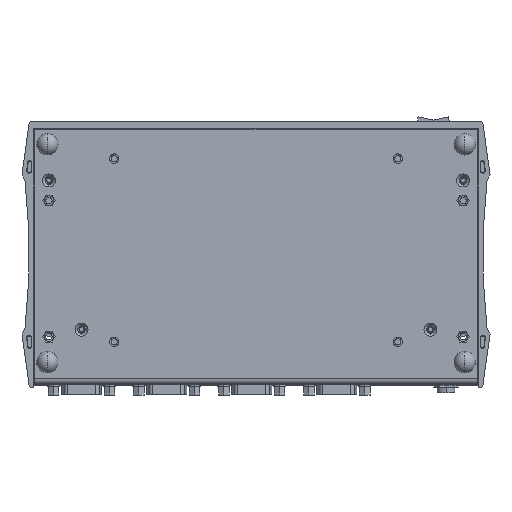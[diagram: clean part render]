
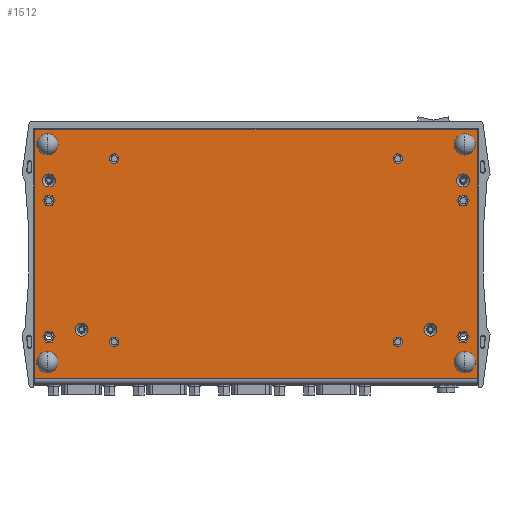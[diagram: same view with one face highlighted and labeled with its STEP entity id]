
A CAD part, front view. The second image highlights one B-rep face of the part: STEP entity #1512.
In plain terms, the highlighted planar face has unit normal (0, -1, 0).
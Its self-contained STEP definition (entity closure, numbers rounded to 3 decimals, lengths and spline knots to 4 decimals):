
#1=DIRECTION('',(-1.,0.,0.));
#2=VECTOR('',#1,7.8);
#3=CARTESIAN_POINT('',(3.9,0.,-1.6305));
#4=LINE('',#3,#2);
#5=DIRECTION('',(0.,0.,1.));
#6=VECTOR('',#5,4.3905);
#7=CARTESIAN_POINT('',(-3.9,0.,-1.6305));
#8=LINE('',#7,#6);
#9=DIRECTION('',(1.,0.,0.));
#10=VECTOR('',#9,7.8);
#11=CARTESIAN_POINT('',(-3.9,0.,2.76));
#12=LINE('',#11,#10);
#13=DIRECTION('',(0.,0.,-1.));
#14=VECTOR('',#13,4.3905);
#15=CARTESIAN_POINT('',(3.9,0.,2.76));
#16=LINE('',#15,#14);
#17=CARTESIAN_POINT('',(3.65,0.,-0.89));
#18=DIRECTION('',(0.,-1.,0.));
#19=DIRECTION('',(-1.,0.,0.));
#20=AXIS2_PLACEMENT_3D('',#17,#18,#19);
#22=CARTESIAN_POINT('',(3.65,0.,-0.89));
#23=DIRECTION('',(0.,-1.,0.));
#24=DIRECTION('',(1.,0.,0.));
#25=AXIS2_PLACEMENT_3D('',#22,#23,#24);
#27=CARTESIAN_POINT('',(3.65,0.,1.51));
#28=DIRECTION('',(0.,-1.,0.));
#29=DIRECTION('',(-1.,0.,0.));
#30=AXIS2_PLACEMENT_3D('',#27,#28,#29);
#32=CARTESIAN_POINT('',(3.65,0.,1.51));
#33=DIRECTION('',(0.,-1.,0.));
#34=DIRECTION('',(1.,0.,0.));
#35=AXIS2_PLACEMENT_3D('',#32,#33,#34);
#37=CARTESIAN_POINT('',(-3.65,0.,-0.89));
#38=DIRECTION('',(0.,-1.,0.));
#39=DIRECTION('',(-1.,0.,0.));
#40=AXIS2_PLACEMENT_3D('',#37,#38,#39);
#42=CARTESIAN_POINT('',(-3.65,0.,-0.89));
#43=DIRECTION('',(0.,-1.,0.));
#44=DIRECTION('',(1.,0.,0.));
#45=AXIS2_PLACEMENT_3D('',#42,#43,#44);
#47=CARTESIAN_POINT('',(-3.65,0.,1.51));
#48=DIRECTION('',(0.,-1.,0.));
#49=DIRECTION('',(-1.,0.,0.));
#50=AXIS2_PLACEMENT_3D('',#47,#48,#49);
#52=CARTESIAN_POINT('',(-3.65,0.,1.51));
#53=DIRECTION('',(0.,-1.,0.));
#54=DIRECTION('',(1.,0.,0.));
#55=AXIS2_PLACEMENT_3D('',#52,#53,#54);
#57=CARTESIAN_POINT('',(2.5,0.,-0.98));
#58=DIRECTION('',(0.,1.,0.));
#59=DIRECTION('',(1.,0.,0.));
#60=AXIS2_PLACEMENT_3D('',#57,#58,#59);
#62=CARTESIAN_POINT('',(2.5,0.,-0.98));
#63=DIRECTION('',(0.,1.,0.));
#64=DIRECTION('',(-1.,0.,0.));
#65=AXIS2_PLACEMENT_3D('',#62,#63,#64);
#67=CARTESIAN_POINT('',(2.5,0.,2.25));
#68=DIRECTION('',(0.,1.,0.));
#69=DIRECTION('',(1.,0.,0.));
#70=AXIS2_PLACEMENT_3D('',#67,#68,#69);
#72=CARTESIAN_POINT('',(2.5,0.,2.25));
#73=DIRECTION('',(0.,1.,0.));
#74=DIRECTION('',(-1.,0.,0.));
#75=AXIS2_PLACEMENT_3D('',#72,#73,#74);
#77=CARTESIAN_POINT('',(-2.5,0.,-0.98));
#78=DIRECTION('',(0.,1.,0.));
#79=DIRECTION('',(1.,0.,0.));
#80=AXIS2_PLACEMENT_3D('',#77,#78,#79);
#82=CARTESIAN_POINT('',(-2.5,0.,-0.98));
#83=DIRECTION('',(0.,1.,0.));
#84=DIRECTION('',(-1.,0.,0.));
#85=AXIS2_PLACEMENT_3D('',#82,#83,#84);
#87=CARTESIAN_POINT('',(-2.5,0.,2.25));
#88=DIRECTION('',(0.,1.,0.));
#89=DIRECTION('',(1.,0.,0.));
#90=AXIS2_PLACEMENT_3D('',#87,#88,#89);
#92=CARTESIAN_POINT('',(-2.5,0.,2.25));
#93=DIRECTION('',(0.,1.,0.));
#94=DIRECTION('',(-1.,0.,0.));
#95=AXIS2_PLACEMENT_3D('',#92,#93,#94);
#97=CARTESIAN_POINT('',(3.075,0.,-0.765));
#98=DIRECTION('',(0.,-1.,0.));
#99=DIRECTION('',(0.,0.,1.));
#100=AXIS2_PLACEMENT_3D('',#97,#98,#99);
#102=CARTESIAN_POINT('',(3.075,0.,-0.765));
#103=DIRECTION('',(0.,-1.,0.));
#104=DIRECTION('',(0.,0.,-1.));
#105=AXIS2_PLACEMENT_3D('',#102,#103,#104);
#107=CARTESIAN_POINT('',(3.65,0.,1.865));
#108=DIRECTION('',(0.,-1.,0.));
#109=DIRECTION('',(0.,0.,1.));
#110=AXIS2_PLACEMENT_3D('',#107,#108,#109);
#112=CARTESIAN_POINT('',(3.65,0.,1.865));
#113=DIRECTION('',(0.,-1.,0.));
#114=DIRECTION('',(0.,0.,-1.));
#115=AXIS2_PLACEMENT_3D('',#112,#113,#114);
#117=CARTESIAN_POINT('',(-3.075,0.,-0.765));
#118=DIRECTION('',(0.,1.,0.));
#119=DIRECTION('',(0.,0.,1.));
#120=AXIS2_PLACEMENT_3D('',#117,#118,#119);
#122=CARTESIAN_POINT('',(-3.075,0.,-0.765));
#123=DIRECTION('',(0.,1.,0.));
#124=DIRECTION('',(0.,0.,-1.));
#125=AXIS2_PLACEMENT_3D('',#122,#123,#124);
#127=CARTESIAN_POINT('',(-3.65,0.,1.865));
#128=DIRECTION('',(0.,1.,0.));
#129=DIRECTION('',(0.,0.,1.));
#130=AXIS2_PLACEMENT_3D('',#127,#128,#129);
#132=CARTESIAN_POINT('',(-3.65,0.,1.865));
#133=DIRECTION('',(0.,1.,0.));
#134=DIRECTION('',(0.,0.,-1.));
#135=AXIS2_PLACEMENT_3D('',#132,#133,#134);
#1081=CARTESIAN_POINT('',(3.9,0.,2.76));
#1082=CARTESIAN_POINT('',(-3.9,0.,2.76));
#1083=VERTEX_POINT('',#1081);
#1084=VERTEX_POINT('',#1082);
#1097=CARTESIAN_POINT('',(3.9,0.,-1.6305));
#1098=VERTEX_POINT('',#1097);
#1099=CARTESIAN_POINT('',(-3.9,0.,-1.6305));
#1100=VERTEX_POINT('',#1099);
#1121=CARTESIAN_POINT('',(-3.567,0.,1.51));
#1122=CARTESIAN_POINT('',(-3.733,0.,1.51));
#1123=VERTEX_POINT('',#1121);
#1124=VERTEX_POINT('',#1122);
#1125=CARTESIAN_POINT('',(-3.567,0.,-0.89));
#1126=CARTESIAN_POINT('',(-3.733,0.,-0.89));
#1127=VERTEX_POINT('',#1125);
#1128=VERTEX_POINT('',#1126);
#1345=CARTESIAN_POINT('',(-2.417,0.,2.25));
#1346=CARTESIAN_POINT('',(-2.583,0.,2.25));
#1347=VERTEX_POINT('',#1345);
#1348=VERTEX_POINT('',#1346);
#1349=CARTESIAN_POINT('',(-2.417,0.,-0.98));
#1350=CARTESIAN_POINT('',(-2.583,0.,-0.98));
#1351=VERTEX_POINT('',#1349);
#1352=VERTEX_POINT('',#1350);
#1353=CARTESIAN_POINT('',(2.583,0.,2.25));
#1354=CARTESIAN_POINT('',(2.417,0.,2.25));
#1355=VERTEX_POINT('',#1353);
#1356=VERTEX_POINT('',#1354);
#1357=CARTESIAN_POINT('',(2.583,0.,-0.98));
#1358=CARTESIAN_POINT('',(2.417,0.,-0.98));
#1359=VERTEX_POINT('',#1357);
#1360=VERTEX_POINT('',#1358);
#1369=CARTESIAN_POINT('',(3.733,0.,1.51));
#1370=CARTESIAN_POINT('',(3.567,0.,1.51));
#1371=VERTEX_POINT('',#1369);
#1372=VERTEX_POINT('',#1370);
#1373=CARTESIAN_POINT('',(3.733,0.,-0.89));
#1374=CARTESIAN_POINT('',(3.567,0.,-0.89));
#1375=VERTEX_POINT('',#1373);
#1376=VERTEX_POINT('',#1374);
#1377=CARTESIAN_POINT('',(3.075,0.,-0.65));
#1378=CARTESIAN_POINT('',(3.075,0.,-0.88));
#1379=VERTEX_POINT('',#1377);
#1380=VERTEX_POINT('',#1378);
#1385=CARTESIAN_POINT('',(3.65,0.,1.98));
#1386=CARTESIAN_POINT('',(3.65,0.,1.75));
#1387=VERTEX_POINT('',#1385);
#1388=VERTEX_POINT('',#1386);
#1393=CARTESIAN_POINT('',(-3.075,0.,-0.65));
#1394=CARTESIAN_POINT('',(-3.075,0.,-0.88));
#1395=VERTEX_POINT('',#1393);
#1396=VERTEX_POINT('',#1394);
#1401=CARTESIAN_POINT('',(-3.65,0.,1.98));
#1402=CARTESIAN_POINT('',(-3.65,0.,1.75));
#1403=VERTEX_POINT('',#1401);
#1404=VERTEX_POINT('',#1402);
#1425=CARTESIAN_POINT('',(0.,0.,0.));
#1426=DIRECTION('',(0.,-1.,0.));
#1427=DIRECTION('',(-1.,0.,0.));
#1428=AXIS2_PLACEMENT_3D('',#1425,#1426,#1427);
#1429=PLANE('',#1428);
#1431=ORIENTED_EDGE('',*,*,#1430,.T.);
#1433=ORIENTED_EDGE('',*,*,#1432,.T.);
#1435=ORIENTED_EDGE('',*,*,#1434,.T.);
#1437=ORIENTED_EDGE('',*,*,#1436,.T.);
#1438=EDGE_LOOP('',(#1431,#1433,#1435,#1437));
#1439=FACE_OUTER_BOUND('',#1438,.F.);
#1441=ORIENTED_EDGE('',*,*,#1440,.T.);
#1443=ORIENTED_EDGE('',*,*,#1442,.T.);
#1444=EDGE_LOOP('',(#1441,#1443));
#1445=FACE_BOUND('',#1444,.F.);
#1447=ORIENTED_EDGE('',*,*,#1446,.T.);
#1449=ORIENTED_EDGE('',*,*,#1448,.T.);
#1450=EDGE_LOOP('',(#1447,#1449));
#1451=FACE_BOUND('',#1450,.F.);
#1453=ORIENTED_EDGE('',*,*,#1452,.T.);
#1455=ORIENTED_EDGE('',*,*,#1454,.T.);
#1456=EDGE_LOOP('',(#1453,#1455));
#1457=FACE_BOUND('',#1456,.F.);
#1459=ORIENTED_EDGE('',*,*,#1458,.T.);
#1461=ORIENTED_EDGE('',*,*,#1460,.T.);
#1462=EDGE_LOOP('',(#1459,#1461));
#1463=FACE_BOUND('',#1462,.F.);
#1465=ORIENTED_EDGE('',*,*,#1464,.F.);
#1467=ORIENTED_EDGE('',*,*,#1466,.F.);
#1468=EDGE_LOOP('',(#1465,#1467));
#1469=FACE_BOUND('',#1468,.F.);
#1471=ORIENTED_EDGE('',*,*,#1470,.F.);
#1473=ORIENTED_EDGE('',*,*,#1472,.F.);
#1474=EDGE_LOOP('',(#1471,#1473));
#1475=FACE_BOUND('',#1474,.F.);
#1477=ORIENTED_EDGE('',*,*,#1476,.F.);
#1479=ORIENTED_EDGE('',*,*,#1478,.F.);
#1480=EDGE_LOOP('',(#1477,#1479));
#1481=FACE_BOUND('',#1480,.F.);
#1483=ORIENTED_EDGE('',*,*,#1482,.F.);
#1485=ORIENTED_EDGE('',*,*,#1484,.F.);
#1486=EDGE_LOOP('',(#1483,#1485));
#1487=FACE_BOUND('',#1486,.F.);
#1489=ORIENTED_EDGE('',*,*,#1488,.T.);
#1491=ORIENTED_EDGE('',*,*,#1490,.T.);
#1492=EDGE_LOOP('',(#1489,#1491));
#1493=FACE_BOUND('',#1492,.F.);
#1495=ORIENTED_EDGE('',*,*,#1494,.T.);
#1497=ORIENTED_EDGE('',*,*,#1496,.T.);
#1498=EDGE_LOOP('',(#1495,#1497));
#1499=FACE_BOUND('',#1498,.F.);
#1501=ORIENTED_EDGE('',*,*,#1500,.F.);
#1503=ORIENTED_EDGE('',*,*,#1502,.F.);
#1504=EDGE_LOOP('',(#1501,#1503));
#1505=FACE_BOUND('',#1504,.F.);
#1507=ORIENTED_EDGE('',*,*,#1506,.F.);
#1509=ORIENTED_EDGE('',*,*,#1508,.F.);
#1510=EDGE_LOOP('',(#1507,#1509));
#1511=FACE_BOUND('',#1510,.F.);
#1512=ADVANCED_FACE('',(#1439,#1445,#1451,#1457,#1463,#1469,#1475,#1481,#1487,
#1493,#1499,#1505,#1511),#1429,.T.);
#21=CIRCLE('',#20,0.083);
#26=CIRCLE('',#25,0.083);
#31=CIRCLE('',#30,0.083);
#36=CIRCLE('',#35,0.083);
#41=CIRCLE('',#40,0.083);
#46=CIRCLE('',#45,0.083);
#51=CIRCLE('',#50,0.083);
#56=CIRCLE('',#55,0.083);
#61=CIRCLE('',#60,0.083);
#66=CIRCLE('',#65,0.083);
#71=CIRCLE('',#70,0.083);
#76=CIRCLE('',#75,0.083);
#81=CIRCLE('',#80,0.083);
#86=CIRCLE('',#85,0.083);
#91=CIRCLE('',#90,0.083);
#96=CIRCLE('',#95,0.083);
#101=CIRCLE('',#100,0.115);
#106=CIRCLE('',#105,0.115);
#111=CIRCLE('',#110,0.115);
#116=CIRCLE('',#115,0.115);
#121=CIRCLE('',#120,0.115);
#126=CIRCLE('',#125,0.115);
#131=CIRCLE('',#130,0.115);
#136=CIRCLE('',#135,0.115);
#1430=EDGE_CURVE('',#1098,#1100,#4,.T.);
#1432=EDGE_CURVE('',#1100,#1084,#8,.T.);
#1434=EDGE_CURVE('',#1084,#1083,#12,.T.);
#1436=EDGE_CURVE('',#1083,#1098,#16,.T.);
#1440=EDGE_CURVE('',#1376,#1375,#21,.T.);
#1442=EDGE_CURVE('',#1375,#1376,#26,.T.);
#1446=EDGE_CURVE('',#1372,#1371,#31,.T.);
#1448=EDGE_CURVE('',#1371,#1372,#36,.T.);
#1452=EDGE_CURVE('',#1128,#1127,#41,.T.);
#1454=EDGE_CURVE('',#1127,#1128,#46,.T.);
#1458=EDGE_CURVE('',#1124,#1123,#51,.T.);
#1460=EDGE_CURVE('',#1123,#1124,#56,.T.);
#1464=EDGE_CURVE('',#1359,#1360,#61,.T.);
#1466=EDGE_CURVE('',#1360,#1359,#66,.T.);
#1470=EDGE_CURVE('',#1355,#1356,#71,.T.);
#1472=EDGE_CURVE('',#1356,#1355,#76,.T.);
#1476=EDGE_CURVE('',#1351,#1352,#81,.T.);
#1478=EDGE_CURVE('',#1352,#1351,#86,.T.);
#1482=EDGE_CURVE('',#1347,#1348,#91,.T.);
#1484=EDGE_CURVE('',#1348,#1347,#96,.T.);
#1488=EDGE_CURVE('',#1379,#1380,#101,.T.);
#1490=EDGE_CURVE('',#1380,#1379,#106,.T.);
#1494=EDGE_CURVE('',#1387,#1388,#111,.T.);
#1496=EDGE_CURVE('',#1388,#1387,#116,.T.);
#1500=EDGE_CURVE('',#1395,#1396,#121,.T.);
#1502=EDGE_CURVE('',#1396,#1395,#126,.T.);
#1506=EDGE_CURVE('',#1403,#1404,#131,.T.);
#1508=EDGE_CURVE('',#1404,#1403,#136,.T.);
